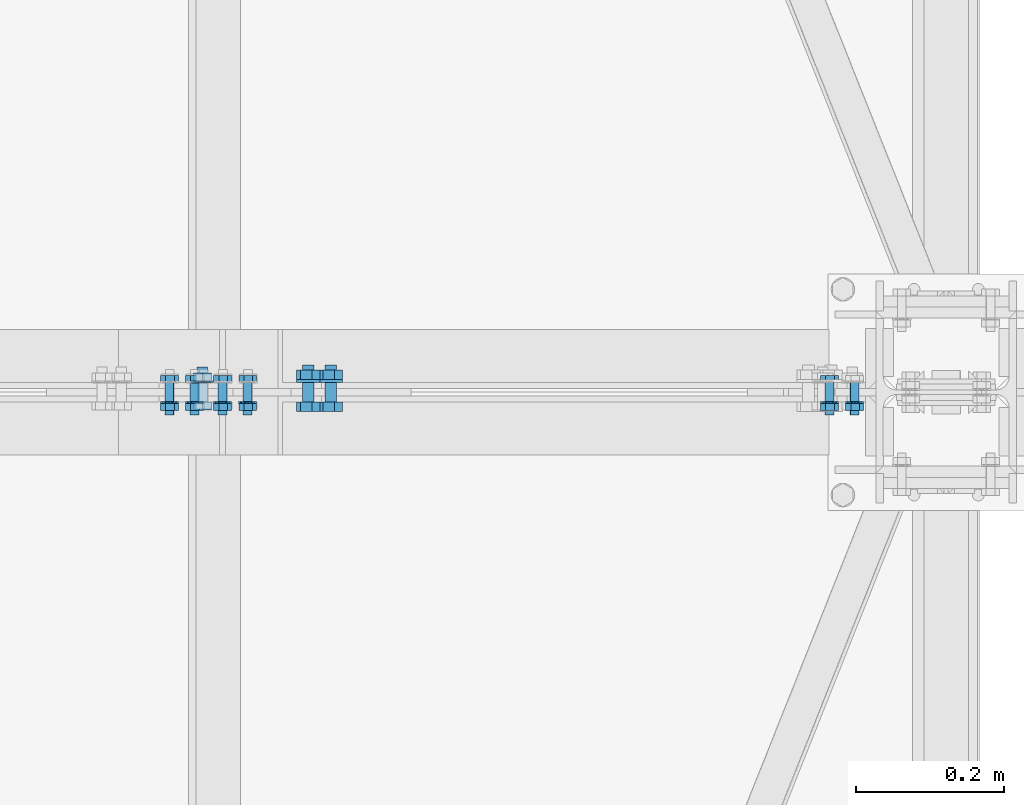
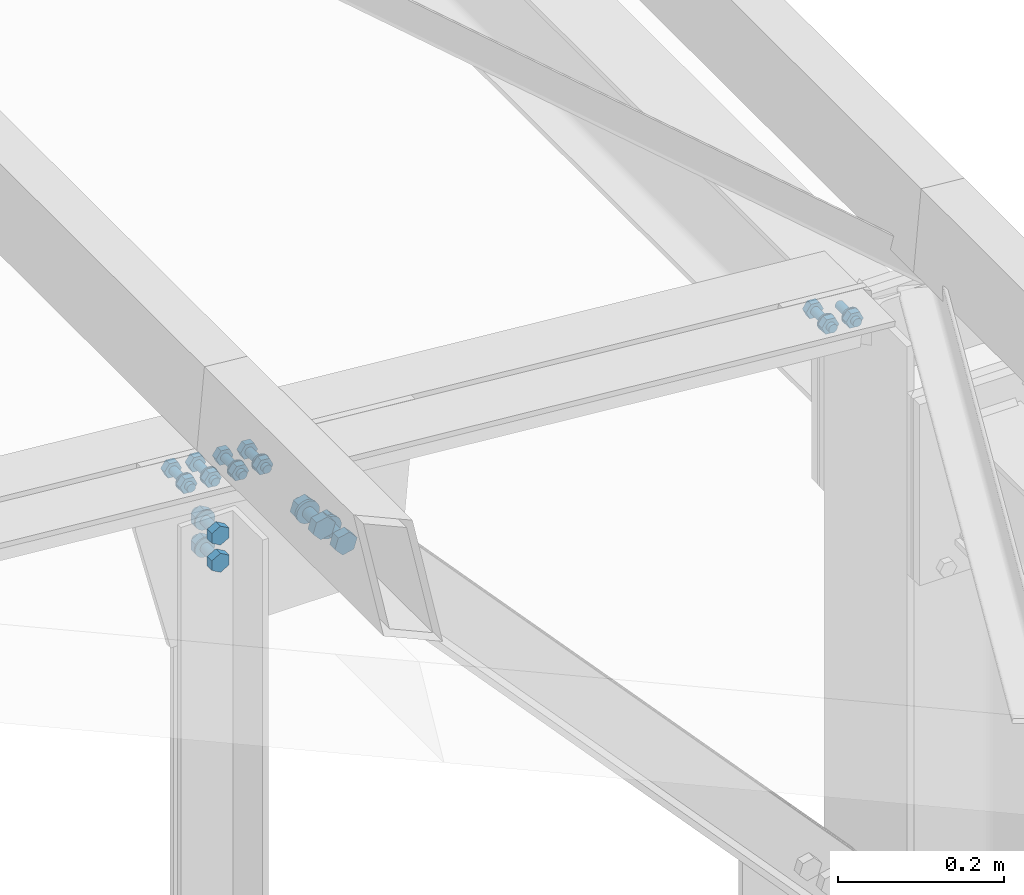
# One storey, part 162 of 251: 39 mechanical fasteners.
"""IFC4 building model written with IfcOpenShell, lengths in metres."""

from ifc_helpers import new_model, si_unit, frame, origin_with_axes, place, context, project, spatial, polyline, outline, extrude, type_object, element, save


model = new_model("IFC4")

# Units and contexts
model_context = context("Model", 3, precision=1e-05, world=origin_with_axes())
ifc_project = project(units=[si_unit("LENGTHUNIT", "METRE"), si_unit("AREAUNIT", "SQUARE_METRE"), si_unit("VOLUMEUNIT", "CUBIC_METRE"), si_unit("MASSUNIT", "GRAM", prefix="KILO"), si_unit("TIMEUNIT", "SECOND"), si_unit("PLANEANGLEUNIT", "RADIAN"), si_unit("SOLIDANGLEUNIT", "STERADIAN"), si_unit("THERMODYNAMICTEMPERATUREUNIT", "DEGREE_CELSIUS")], contexts=[model_context])

# Site, building, storey
placement_1 = place(None, origin_with_axes())
site = spatial("IfcSite", under=ifc_project, at=placement_1, Name="Italia", CompositionType="ELEMENT")
building = spatial("IfcBuilding", under=site, at=placement_1, Name="Deposito", CompositionType="ELEMENT")
storey = spatial("IfcBuildingStorey", under=building, at=placement_1, Name="Storey 0", CompositionType="ELEMENT", Elevation=0.0)

# Mechanical fasteners
mechanical_fastener_type_1 = type_object("IfcMechanicalFastenerType", Name="Reticolare 4", PredefinedType="BOLT")
placement_2 = place(placement_1, origin_with_axes())
mechanical_fastener_1_placement = place(placement_2, origin_with_axes())
element("IfcMechanicalFastener", 1, at=mechanical_fastener_1_placement, inside=storey, type_object=mechanical_fastener_type_1, Name="Reticolare 4", NominalDiameter=0.012, context=model_context, shape_type="SweptSolid", body=[
    extrude(outline(polyline([(0.0, 0.0), (-0.000204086, -0.00155306), (-0.000804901, -0.00299978), (-0.00175858, -0.00424242), (-0.00300026, -0.00519609), (-0.00444794, -0.00579548), (-0.00600052, -0.00600004), (-0.0075531, -0.00579548), (-0.00900078, -0.00519609), (-0.0102425, -0.00424242), (-0.0111961, -0.00299978), (-0.011797, -0.00155306), (-0.012001, 0.0), (-0.011797, 0.00155306), (-0.0111961, 0.00299978), (-0.0102425, 0.00424242), (-0.00900078, 0.00519609), (-0.0075531, 0.00579548), (-0.00600052, 0.00600004), (-0.00444794, 0.00579548), (-0.00300026, 0.00519609), (-0.00175858, 0.00424242), (-0.000804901, 0.00299978), (-0.000204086, 0.00155306), (0.0, 0.0)])), frame((19.8702, 9.969, 6.0038), z_axis=(0.0, 1.0, 0.0), x_axis=(-1.0, 0.0, 0.0)), (0.0, 0.0, 1.0), 0.0439997),
])
mechanical_fastener_type_2 = type_object("IfcMechanicalFastenerType", Name="Reticolare 4", PredefinedType="BOLT")
mechanical_fastener_2_placement = place(placement_2, origin_with_axes())
element("IfcMechanicalFastener", 2, at=mechanical_fastener_2_placement, inside=storey, type_object=mechanical_fastener_type_2, Name="Reticolare 4", NominalDiameter=0.011999, context=model_context, shape_type="SweptSolid", body=[
    extrude(outline(polyline([(0.0, 0.0), (0.0119534, 0.00104618), (0.018837, -0.00878382), (0.0137653, -0.0196595), (0.00181198, -0.0207052), (-0.00507164, -0.0108757), (0.0, 0.0)])), frame((19.8831, 9.9754, 6.01363), z_axis=(0.0, 1.0, 0.0), x_axis=(-1.0, 0.0, 0.0)), (0.0, 0.0, 1.0), 0.00959969),
])
mechanical_fastener_type_3 = type_object("IfcMechanicalFastenerType", Name="Reticolare 4", PredefinedType="BOLT")
mechanical_fastener_3_placement = place(placement_2, origin_with_axes())
element("IfcMechanicalFastener", 3, at=mechanical_fastener_3_placement, inside=storey, type_object=mechanical_fastener_type_3, Name="Reticolare 4", NominalDiameter=0.024, context=model_context, shape_type="SweptSolid", body=[
    extrude(outline(polyline([(0.0, 0.0), (-0.000408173, -0.00310564), (-0.00160599, -0.00600004), (-0.00351334, -0.00848532), (-0.00599861, -0.0103922), (-0.00889397, -0.011591), (-0.0119991, -0.0120001), (-0.0151043, -0.011591), (-0.0179996, -0.0103922), (-0.0204849, -0.00848532), (-0.0223923, -0.00600004), (-0.0235901, -0.00310564), (-0.0239983, 0.0), (-0.0235901, 0.00310564), (-0.0223923, 0.00600004), (-0.0204849, 0.00848532), (-0.0179996, 0.0103922), (-0.0151043, 0.011591), (-0.0119991, 0.0120001), (-0.00889397, 0.011591), (-0.00599861, 0.0103922), (-0.00351334, 0.00848532), (-0.00160599, 0.00600004), (-0.000408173, 0.00310564), (0.0, 0.0)])), frame((19.8642, 9.985, 6.0038), z_axis=(0.0, 1.0, 0.0), x_axis=(-1.0, 0.0, 0.0)), (0.0, 0.0, 1.0), 0.00200081),
])
mechanical_fastener_type_4 = type_object("IfcMechanicalFastenerType", Name="Reticolare 4", PredefinedType="BOLT")
mechanical_fastener_4_placement = place(placement_2, origin_with_axes())
element("IfcMechanicalFastener", 4, at=mechanical_fastener_4_placement, inside=storey, type_object=mechanical_fastener_type_4, Name="Reticolare 4", NominalDiameter=0.011999, context=model_context, shape_type="SweptSolid", body=[
    extrude(outline(polyline([(0.0, 0.0), (0.0119534, 0.0010457), (0.018837, -0.00878429), (0.0137653, -0.01966), (0.00181198, -0.0207057), (-0.00507164, -0.0108757), (0.0, 0.0)])), frame((19.8492, 10.013, 6.0166), z_axis=(0.0, 1.0, 0.0), x_axis=(-1.0, 0.0, 0.0)), (0.0, 0.0, 1.0), 0.00960064),
])
mechanical_fastener_type_5 = type_object("IfcMechanicalFastenerType", Name="Reticolare 4", PredefinedType="BOLT")
mechanical_fastener_5_placement = place(placement_2, origin_with_axes())
element("IfcMechanicalFastener", 5, at=mechanical_fastener_5_placement, inside=storey, type_object=mechanical_fastener_type_5, Name="Reticolare 4", NominalDiameter=0.012, context=model_context, shape_type="SweptSolid", body=[
    extrude(outline(polyline([(0.0, 0.0), (-0.000204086, -0.00155306), (-0.000804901, -0.00299978), (-0.00175858, -0.00424242), (-0.00300026, -0.00519609), (-0.00444794, -0.00579548), (-0.00600052, -0.00600004), (-0.0075531, -0.00579548), (-0.00900078, -0.00519609), (-0.0102425, -0.00424242), (-0.0111961, -0.00299978), (-0.011797, -0.00155306), (-0.012001, 0.0), (-0.011797, 0.00155306), (-0.0111961, 0.00299978), (-0.0102425, 0.00424242), (-0.00900078, 0.00519609), (-0.0075531, 0.00579548), (-0.00600052, 0.00600004), (-0.00444794, 0.00579548), (-0.00300026, 0.00519609), (-0.00175858, 0.00424242), (-0.000804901, 0.00299978), (-0.000204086, 0.00155306), (0.0, 0.0)])), frame((19.8363, 9.969, 6.00677), z_axis=(0.0, 1.0, 0.0), x_axis=(-1.0, 0.0, 0.0)), (0.0, 0.0, 1.0), 0.0439997),
])
mechanical_fastener_type_6 = type_object("IfcMechanicalFastenerType", Name="Reticolare 4", PredefinedType="BOLT")
mechanical_fastener_6_placement = place(placement_2, origin_with_axes())
element("IfcMechanicalFastener", 6, at=mechanical_fastener_6_placement, inside=storey, type_object=mechanical_fastener_type_6, Name="Reticolare 4", NominalDiameter=0.011999, context=model_context, shape_type="SweptSolid", body=[
    extrude(outline(polyline([(0.0, 0.0), (0.0119534, 0.0010457), (0.018837, -0.00878429), (0.0137653, -0.01966), (0.00181198, -0.0207057), (-0.00507164, -0.0108757), (0.0, 0.0)])), frame((19.8492, 9.9754, 6.0166), z_axis=(0.0, 1.0, 0.0), x_axis=(-1.0, 0.0, 0.0)), (0.0, 0.0, 1.0), 0.00959969),
])
mechanical_fastener_type_7 = type_object("IfcMechanicalFastenerType", Name="Reticolare 4", PredefinedType="BOLT")
mechanical_fastener_7_placement = place(placement_2, origin_with_axes())
element("IfcMechanicalFastener", 7, at=mechanical_fastener_7_placement, inside=storey, type_object=mechanical_fastener_type_7, Name="Reticolare 4", NominalDiameter=0.024, context=model_context, shape_type="SweptSolid", body=[
    extrude(outline(polyline([(0.0, 0.0), (-0.000408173, -0.00310564), (-0.00160599, -0.00600004), (-0.00351334, -0.00848532), (-0.00599861, -0.0103922), (-0.00889397, -0.011591), (-0.0119991, -0.0120001), (-0.0151043, -0.011591), (-0.0179996, -0.0103922), (-0.0204849, -0.00848532), (-0.0223923, -0.00600004), (-0.0235901, -0.00310564), (-0.0239983, 0.0), (-0.0235901, 0.00310564), (-0.0223923, 0.00600004), (-0.0204849, 0.00848532), (-0.0179996, 0.0103922), (-0.0151043, 0.011591), (-0.0119991, 0.0120001), (-0.00889397, 0.011591), (-0.00599861, 0.0103922), (-0.00351334, 0.00848532), (-0.00160599, 0.00600004), (-0.000408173, 0.00310564), (0.0, 0.0)])), frame((19.8303, 9.985, 6.00677), z_axis=(0.0, 1.0, 0.0), x_axis=(-1.0, 0.0, 0.0)), (0.0, 0.0, 1.0), 0.00200081),
])
mechanical_fastener_type_8 = type_object("IfcMechanicalFastenerType", Name="Reticolare 4", PredefinedType="BOLT")
mechanical_fastener_8_placement = place(placement_2, origin_with_axes())
element("IfcMechanicalFastener", 8, at=mechanical_fastener_8_placement, inside=storey, type_object=mechanical_fastener_type_8, Name="Reticolare 4", NominalDiameter=0.011999, context=model_context, shape_type="SweptSolid", body=[
    extrude(outline(polyline([(0.0, 0.0), (0.0119534, 0.00104618), (0.018837, -0.00878382), (0.0137653, -0.0196595), (0.00181198, -0.0207052), (-0.00507164, -0.0108757), (0.0, 0.0)])), frame((18.9911, 10.013, 6.09167), z_axis=(0.0, 1.0, 0.0), x_axis=(-1.0, 0.0, 0.0)), (0.0, 0.0, 1.0), 0.00960064),
])
mechanical_fastener_type_9 = type_object("IfcMechanicalFastenerType", Name="Reticolare 4", PredefinedType="BOLT")
mechanical_fastener_9_placement = place(placement_2, origin_with_axes())
element("IfcMechanicalFastener", 9, at=mechanical_fastener_9_placement, inside=storey, type_object=mechanical_fastener_type_9, Name="Reticolare 4", NominalDiameter=0.012, context=model_context, shape_type="SweptSolid", body=[
    extrude(outline(polyline([(0.0, 0.0), (-0.000204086, -0.00155306), (-0.000804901, -0.00299978), (-0.00175858, -0.00424242), (-0.00300026, -0.00519609), (-0.00444794, -0.00579548), (-0.00600052, -0.00600004), (-0.0075531, -0.00579548), (-0.00900078, -0.00519609), (-0.0102425, -0.00424242), (-0.0111961, -0.00299978), (-0.011797, -0.00155306), (-0.012001, 0.0), (-0.011797, 0.00155306), (-0.0111961, 0.00299978), (-0.0102425, 0.00424242), (-0.00900078, 0.00519609), (-0.0075531, 0.00579548), (-0.00600052, 0.00600004), (-0.00444794, 0.00579548), (-0.00300026, 0.00519609), (-0.00175858, 0.00424242), (-0.000804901, 0.00299978), (-0.000204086, 0.00155306), (0.0, 0.0)])), frame((18.9783, 9.969, 6.08184), z_axis=(0.0, 1.0, 0.0), x_axis=(-1.0, 0.0, 0.0)), (0.0, 0.0, 1.0), 0.0439997),
])
mechanical_fastener_type_10 = type_object("IfcMechanicalFastenerType", Name="Reticolare 4", PredefinedType="BOLT")
mechanical_fastener_10_placement = place(placement_2, origin_with_axes())
element("IfcMechanicalFastener", 10, at=mechanical_fastener_10_placement, inside=storey, type_object=mechanical_fastener_type_10, Name="Reticolare 4", NominalDiameter=0.011999, context=model_context, shape_type="SweptSolid", body=[
    extrude(outline(polyline([(0.0, 0.0), (0.0119534, 0.00104618), (0.018837, -0.00878382), (0.0137653, -0.0196595), (0.00181198, -0.0207052), (-0.00507164, -0.0108757), (0.0, 0.0)])), frame((18.9911, 9.9754, 6.09167), z_axis=(0.0, 1.0, 0.0), x_axis=(-1.0, 0.0, 0.0)), (0.0, 0.0, 1.0), 0.00959969),
])
mechanical_fastener_type_11 = type_object("IfcMechanicalFastenerType", Name="Reticolare 4", PredefinedType="BOLT")
mechanical_fastener_11_placement = place(placement_2, origin_with_axes())
element("IfcMechanicalFastener", 11, at=mechanical_fastener_11_placement, inside=storey, type_object=mechanical_fastener_type_11, Name="Reticolare 4", NominalDiameter=0.024, context=model_context, shape_type="SweptSolid", body=[
    extrude(outline(polyline([(0.0, 0.0), (-0.000408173, -0.00310564), (-0.00160599, -0.00600004), (-0.00351334, -0.00848532), (-0.00599861, -0.0103922), (-0.00889397, -0.011591), (-0.0119991, -0.0120001), (-0.0151043, -0.011591), (-0.0179996, -0.0103922), (-0.0204849, -0.00848532), (-0.0223923, -0.00600004), (-0.0235901, -0.00310564), (-0.0239983, 0.0), (-0.0235901, 0.00310564), (-0.0223923, 0.00600004), (-0.0204849, 0.00848532), (-0.0179996, 0.0103922), (-0.0151043, 0.011591), (-0.0119991, 0.0120001), (-0.00889397, 0.011591), (-0.00599861, 0.0103922), (-0.00351334, 0.00848532), (-0.00160599, 0.00600004), (-0.000408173, 0.00310564), (0.0, 0.0)])), frame((18.9723, 9.985, 6.08184), z_axis=(0.0, 1.0, 0.0), x_axis=(-1.0, 0.0, 0.0)), (0.0, 0.0, 1.0), 0.00200081),
])
mechanical_fastener_type_12 = type_object("IfcMechanicalFastenerType", Name="Reticolare 4", PredefinedType="BOLT")
mechanical_fastener_12_placement = place(placement_2, origin_with_axes())
element("IfcMechanicalFastener", 12, at=mechanical_fastener_12_placement, inside=storey, type_object=mechanical_fastener_type_12, Name="Reticolare 4", NominalDiameter=0.011999, context=model_context, shape_type="SweptSolid", body=[
    extrude(outline(polyline([(0.0, 0.0), (0.0119534, 0.0010457), (0.018837, -0.00878429), (0.0137653, -0.01966), (0.00181198, -0.0207057), (-0.00507164, -0.0108757), (0.0, 0.0)])), frame((18.9573, 10.013, 6.09463), z_axis=(0.0, 1.0, 0.0), x_axis=(-1.0, 0.0, 0.0)), (0.0, 0.0, 1.0), 0.00960064),
])
mechanical_fastener_type_13 = type_object("IfcMechanicalFastenerType", Name="Reticolare 4", PredefinedType="BOLT")
mechanical_fastener_13_placement = place(placement_2, origin_with_axes())
element("IfcMechanicalFastener", 13, at=mechanical_fastener_13_placement, inside=storey, type_object=mechanical_fastener_type_13, Name="Reticolare 4", NominalDiameter=0.012, context=model_context, shape_type="SweptSolid", body=[
    extrude(outline(polyline([(0.0, 0.0), (-0.000204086, -0.00155306), (-0.000804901, -0.00299978), (-0.00175858, -0.00424242), (-0.00300026, -0.00519609), (-0.00444794, -0.00579548), (-0.00600052, -0.00600004), (-0.0075531, -0.00579548), (-0.00900078, -0.00519609), (-0.0102425, -0.00424242), (-0.0111961, -0.00299978), (-0.011797, -0.00155306), (-0.012001, 0.0), (-0.011797, 0.00155306), (-0.0111961, 0.00299978), (-0.0102425, 0.00424242), (-0.00900078, 0.00519609), (-0.0075531, 0.00579548), (-0.00600052, 0.00600004), (-0.00444794, 0.00579548), (-0.00300026, 0.00519609), (-0.00175858, 0.00424242), (-0.000804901, 0.00299978), (-0.000204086, 0.00155306), (0.0, 0.0)])), frame((18.9444, 9.969, 6.0848), z_axis=(0.0, 1.0, 0.0), x_axis=(-1.0, 0.0, 0.0)), (0.0, 0.0, 1.0), 0.0439997),
])
mechanical_fastener_type_14 = type_object("IfcMechanicalFastenerType", Name="Reticolare 4", PredefinedType="BOLT")
mechanical_fastener_14_placement = place(placement_2, origin_with_axes())
element("IfcMechanicalFastener", 14, at=mechanical_fastener_14_placement, inside=storey, type_object=mechanical_fastener_type_14, Name="Reticolare 4", NominalDiameter=0.011999, context=model_context, shape_type="SweptSolid", body=[
    extrude(outline(polyline([(0.0, 0.0), (0.0119534, 0.0010457), (0.018837, -0.00878429), (0.0137653, -0.01966), (0.00181198, -0.0207057), (-0.00507164, -0.0108757), (0.0, 0.0)])), frame((18.9573, 9.9754, 6.09463), z_axis=(0.0, 1.0, 0.0), x_axis=(-1.0, 0.0, 0.0)), (0.0, 0.0, 1.0), 0.00959969),
])
mechanical_fastener_type_15 = type_object("IfcMechanicalFastenerType", Name="Reticolare 4", PredefinedType="BOLT")
mechanical_fastener_15_placement = place(placement_2, origin_with_axes())
element("IfcMechanicalFastener", 15, at=mechanical_fastener_15_placement, inside=storey, type_object=mechanical_fastener_type_15, Name="Reticolare 4", NominalDiameter=0.024, context=model_context, shape_type="SweptSolid", body=[
    extrude(outline(polyline([(0.0, 0.0), (-0.000408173, -0.00310564), (-0.00160599, -0.00600004), (-0.00351334, -0.00848532), (-0.00599861, -0.0103922), (-0.00889397, -0.011591), (-0.0119991, -0.0120001), (-0.0151043, -0.011591), (-0.0179996, -0.0103922), (-0.0204849, -0.00848532), (-0.0223923, -0.00600004), (-0.0235901, -0.00310564), (-0.0239983, 0.0), (-0.0235901, 0.00310564), (-0.0223923, 0.00600004), (-0.0204849, 0.00848532), (-0.0179996, 0.0103922), (-0.0151043, 0.011591), (-0.0119991, 0.0120001), (-0.00889397, 0.011591), (-0.00599861, 0.0103922), (-0.00351334, 0.00848532), (-0.00160599, 0.00600004), (-0.000408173, 0.00310564), (0.0, 0.0)])), frame((18.9384, 9.985, 6.0848), z_axis=(0.0, 1.0, 0.0), x_axis=(-1.0, 0.0, 0.0)), (0.0, 0.0, 1.0), 0.00200081),
])
mechanical_fastener_type_16 = type_object("IfcMechanicalFastenerType", Name="Reticolare 4", PredefinedType="BOLT")
mechanical_fastener_16_placement = place(placement_2, origin_with_axes())
element("IfcMechanicalFastener", 16, at=mechanical_fastener_16_placement, inside=storey, type_object=mechanical_fastener_type_16, Name="Reticolare 4", NominalDiameter=0.011999, context=model_context, shape_type="SweptSolid", body=[
    extrude(outline(polyline([(0.0, 0.0), (0.0119534, 0.0010457), (0.018837, -0.00878429), (0.0137653, -0.01966), (0.00181007, -0.0207057), (-0.00507164, -0.0108757), (0.0, 0.0)])), frame((19.029, 10.013, 6.08836), z_axis=(0.0, 1.0, 0.0), x_axis=(-1.0, 0.0, 0.0)), (0.0, 0.0, 1.0), 0.00960064),
])
mechanical_fastener_type_17 = type_object("IfcMechanicalFastenerType", Name="Reticolare 4", PredefinedType="BOLT")
mechanical_fastener_17_placement = place(placement_2, origin_with_axes())
element("IfcMechanicalFastener", 17, at=mechanical_fastener_17_placement, inside=storey, type_object=mechanical_fastener_type_17, Name="Reticolare 4", NominalDiameter=0.012, context=model_context, shape_type="SweptSolid", body=[
    extrude(outline(polyline([(0.0, 0.0), (-0.000204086, -0.00155306), (-0.000804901, -0.00299978), (-0.00175858, -0.00424242), (-0.00300026, -0.00519609), (-0.00444794, -0.00579548), (-0.00600052, -0.00600004), (-0.0075531, -0.00579548), (-0.00900078, -0.00519609), (-0.0102425, -0.00424242), (-0.0111961, -0.00299978), (-0.011797, -0.00155306), (-0.012001, 0.0), (-0.011797, 0.00155306), (-0.0111961, 0.00299978), (-0.0102425, 0.00424242), (-0.00900078, 0.00519609), (-0.0075531, 0.00579548), (-0.00600052, 0.00600004), (-0.00444794, 0.00579548), (-0.00300026, 0.00519609), (-0.00175858, 0.00424242), (-0.000804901, 0.00299978), (-0.000204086, 0.00155306), (0.0, 0.0)])), frame((19.0161, 9.969, 6.07853), z_axis=(0.0, 1.0, 0.0), x_axis=(-1.0, 0.0, 0.0)), (0.0, 0.0, 1.0), 0.0439997),
])
mechanical_fastener_type_18 = type_object("IfcMechanicalFastenerType", Name="Reticolare 4", PredefinedType="BOLT")
mechanical_fastener_18_placement = place(placement_2, origin_with_axes())
element("IfcMechanicalFastener", 18, at=mechanical_fastener_18_placement, inside=storey, type_object=mechanical_fastener_type_18, Name="Reticolare 4", NominalDiameter=0.011999, context=model_context, shape_type="SweptSolid", body=[
    extrude(outline(polyline([(0.0, 0.0), (0.0119534, 0.0010457), (0.018837, -0.00878429), (0.0137653, -0.01966), (0.00181007, -0.0207057), (-0.00507164, -0.0108757), (0.0, 0.0)])), frame((19.029, 9.9754, 6.08836), z_axis=(0.0, 1.0, 0.0), x_axis=(-1.0, 0.0, 0.0)), (0.0, 0.0, 1.0), 0.00959969),
])
mechanical_fastener_type_19 = type_object("IfcMechanicalFastenerType", Name="Reticolare 4", PredefinedType="BOLT")
mechanical_fastener_19_placement = place(placement_2, origin_with_axes())
element("IfcMechanicalFastener", 19, at=mechanical_fastener_19_placement, inside=storey, type_object=mechanical_fastener_type_19, Name="Reticolare 4", NominalDiameter=0.024, context=model_context, shape_type="SweptSolid", body=[
    extrude(outline(polyline([(0.0, 0.0), (-0.000408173, -0.00310564), (-0.00160599, -0.00600004), (-0.00351334, -0.00848532), (-0.00599861, -0.0103922), (-0.00889397, -0.011591), (-0.0119991, -0.0120001), (-0.0151043, -0.011591), (-0.0179996, -0.0103922), (-0.0204849, -0.00848532), (-0.0223923, -0.00600004), (-0.0235901, -0.00310564), (-0.0239983, 0.0), (-0.0235901, 0.00310564), (-0.0223923, 0.00600004), (-0.0204849, 0.00848532), (-0.0179996, 0.0103922), (-0.0151043, 0.011591), (-0.0119991, 0.0120001), (-0.00889397, 0.011591), (-0.00599861, 0.0103922), (-0.00351334, 0.00848532), (-0.00160599, 0.00600004), (-0.000408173, 0.00310564), (0.0, 0.0)])), frame((19.0101, 9.985, 6.07853), z_axis=(0.0, 1.0, 0.0), x_axis=(-1.0, 0.0, 0.0)), (0.0, 0.0, 1.0), 0.00200081),
])
mechanical_fastener_type_20 = type_object("IfcMechanicalFastenerType", Name="Reticolare 4", PredefinedType="BOLT")
mechanical_fastener_20_placement = place(placement_2, origin_with_axes())
element("IfcMechanicalFastener", 20, at=mechanical_fastener_20_placement, inside=storey, type_object=mechanical_fastener_type_20, Name="Reticolare 4", NominalDiameter=0.011999, context=model_context, shape_type="SweptSolid", body=[
    extrude(outline(polyline([(0.0, 0.0), (0.0119534, 0.0010457), (0.018837, -0.00878382), (0.0137653, -0.0196595), (0.00181007, -0.0207052), (-0.00507164, -0.0108757), (0.0, 0.0)])), frame((19.0629, 10.013, 6.08539), z_axis=(0.0, 1.0, 0.0), x_axis=(-1.0, 0.0, 0.0)), (0.0, 0.0, 1.0), 0.00960064),
])
mechanical_fastener_type_21 = type_object("IfcMechanicalFastenerType", Name="Reticolare 4", PredefinedType="BOLT")
mechanical_fastener_21_placement = place(placement_2, origin_with_axes())
element("IfcMechanicalFastener", 21, at=mechanical_fastener_21_placement, inside=storey, type_object=mechanical_fastener_type_21, Name="Reticolare 4", NominalDiameter=0.012, context=model_context, shape_type="SweptSolid", body=[
    extrude(outline(polyline([(0.0, 0.0), (-0.000204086, -0.00155306), (-0.000804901, -0.00299978), (-0.00175858, -0.00424242), (-0.00300026, -0.00519609), (-0.00444794, -0.00579548), (-0.00600052, -0.00600004), (-0.0075531, -0.00579548), (-0.00900078, -0.00519609), (-0.0102425, -0.00424242), (-0.0111961, -0.00299978), (-0.011797, -0.00155306), (-0.012001, 0.0), (-0.011797, 0.00155306), (-0.0111961, 0.00299978), (-0.0102425, 0.00424242), (-0.00900078, 0.00519609), (-0.0075531, 0.00579548), (-0.00600052, 0.00600004), (-0.00444794, 0.00579548), (-0.00300026, 0.00519609), (-0.00175858, 0.00424242), (-0.000804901, 0.00299978), (-0.000204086, 0.00155306), (0.0, 0.0)])), frame((19.05, 9.969, 6.07556), z_axis=(0.0, 1.0, 0.0), x_axis=(-1.0, 0.0, 0.0)), (0.0, 0.0, 1.0), 0.0439997),
])
mechanical_fastener_type_22 = type_object("IfcMechanicalFastenerType", Name="Reticolare 4", PredefinedType="BOLT")
mechanical_fastener_22_placement = place(placement_2, origin_with_axes())
element("IfcMechanicalFastener", 22, at=mechanical_fastener_22_placement, inside=storey, type_object=mechanical_fastener_type_22, Name="Reticolare 4", NominalDiameter=0.011999, context=model_context, shape_type="SweptSolid", body=[
    extrude(outline(polyline([(0.0, 0.0), (0.0119534, 0.0010457), (0.018837, -0.00878382), (0.0137653, -0.0196595), (0.00181007, -0.0207052), (-0.00507164, -0.0108757), (0.0, 0.0)])), frame((19.0629, 9.9754, 6.08539), z_axis=(0.0, 1.0, 0.0), x_axis=(-1.0, 0.0, 0.0)), (0.0, 0.0, 1.0), 0.00959969),
])
mechanical_fastener_type_23 = type_object("IfcMechanicalFastenerType", Name="Reticolare 4", PredefinedType="BOLT")
mechanical_fastener_23_placement = place(placement_2, origin_with_axes())
element("IfcMechanicalFastener", 23, at=mechanical_fastener_23_placement, inside=storey, type_object=mechanical_fastener_type_23, Name="Reticolare 4", NominalDiameter=0.024, context=model_context, shape_type="SweptSolid", body=[
    extrude(outline(polyline([(0.0, 0.0), (-0.000408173, -0.00310564), (-0.00160599, -0.00600004), (-0.00351334, -0.00848532), (-0.00599861, -0.0103922), (-0.00889397, -0.011591), (-0.0119991, -0.0120001), (-0.0151043, -0.011591), (-0.0179996, -0.0103922), (-0.0204849, -0.00848532), (-0.0223923, -0.00600004), (-0.0235901, -0.00310564), (-0.0239983, 0.0), (-0.0235901, 0.00310564), (-0.0223923, 0.00600004), (-0.0204849, 0.00848532), (-0.0179996, 0.0103922), (-0.0151043, 0.011591), (-0.0119991, 0.0120001), (-0.00889397, 0.011591), (-0.00599861, 0.0103922), (-0.00351334, 0.00848532), (-0.00160599, 0.00600004), (-0.000408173, 0.00310564), (0.0, 0.0)])), frame((19.044, 9.985, 6.07556), z_axis=(0.0, 1.0, 0.0), x_axis=(-1.0, 0.0, 0.0)), (0.0, 0.0, 1.0), 0.00200081),
])
mechanical_fastener_type_24 = type_object("IfcMechanicalFastenerType", Name="Reticolare 4", PredefinedType="BOLT")
mechanical_fastener_24_placement = place(placement_2, origin_with_axes())
element("IfcMechanicalFastener", 24, at=mechanical_fastener_24_placement, inside=storey, type_object=mechanical_fastener_type_24, Name="Reticolare 4", NominalDiameter=0.0139989, context=model_context, shape_type="SweptSolid", body=[
    extrude(outline(polyline([(0.0, 0.0), (0.0, -0.0139999), (-0.012125, -0.0209999), (-0.0242481, -0.0139999), (-0.0242481, 0.0), (-0.012125, 0.00699997), (0.0, 0.0)])), frame((19.0069, 9.987, 6.0024), z_axis=(0.0, -1.0, 0.0), x_axis=(1.0, 0.0, 0.0)), (0.0, 0.0, 1.0), 0.0112009),
])
mechanical_fastener_type_25 = type_object("IfcMechanicalFastenerType", Name="Reticolare 4", PredefinedType="BOLT")
mechanical_fastener_25_placement = place(placement_2, origin_with_axes())
element("IfcMechanicalFastener", 25, at=mechanical_fastener_25_placement, inside=storey, type_object=mechanical_fastener_type_25, Name="Reticolare 4", NominalDiameter=0.014, context=model_context, shape_type="SweptSolid", body=[
    extrude(outline(polyline([(0.0, 0.0), (-0.000238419, -0.0018115), (-0.000938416, -0.00349998), (-0.0020504, -0.00494957), (-0.00349998, -0.00606203), (-0.00518799, -0.00676155), (-0.00699997, -0.00699997), (-0.00881195, -0.00676155), (-0.0105, -0.00606203), (-0.0119495, -0.00494957), (-0.0130615, -0.00349998), (-0.0137615, -0.0018115), (-0.0139999, 0.0), (-0.0137615, 0.0018115), (-0.0130615, 0.00349998), (-0.0119495, 0.00494957), (-0.0105, 0.00606203), (-0.00881195, 0.00676155), (-0.00699997, 0.00699997), (-0.00518799, 0.00676155), (-0.00349998, 0.00606203), (-0.0020504, 0.00494957), (-0.000938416, 0.00349998), (-0.000238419, 0.0018115), (0.0, 0.0)])), frame((19.0018, 10.034, 5.99539), z_axis=(0.0, -1.0, 0.0), x_axis=(1.0, 0.0, 0.0)), (0.0, 0.0, 1.0), 0.0469999),
])
mechanical_fastener_type_26 = type_object("IfcMechanicalFastenerType", Name="Reticolare 4", PredefinedType="BOLT")
mechanical_fastener_26_placement = place(placement_2, origin_with_axes())
element("IfcMechanicalFastener", 26, at=mechanical_fastener_26_placement, inside=storey, type_object=mechanical_fastener_type_26, Name="Reticolare 4", NominalDiameter=0.0139989, context=model_context, shape_type="SweptSolid", body=[
    extrude(outline(polyline([(0.0, 0.0), (0.0, -0.0139999), (-0.012125, -0.0209999), (-0.0242481, -0.0139999), (-0.0242481, 0.0), (-0.012125, 0.00699997), (0.0, 0.0)])), frame((19.0069, 10.0262, 6.0024), z_axis=(0.0, -1.0, 0.0), x_axis=(1.0, 0.0, 0.0)), (0.0, 0.0, 1.0), 0.0112),
])
mechanical_fastener_type_27 = type_object("IfcMechanicalFastenerType", Name="Reticolare 4", PredefinedType="BOLT")
mechanical_fastener_27_placement = place(placement_2, origin_with_axes())
element("IfcMechanicalFastener", 27, at=mechanical_fastener_27_placement, inside=storey, type_object=mechanical_fastener_type_27, Name="Reticolare 4", NominalDiameter=0.028, context=model_context, shape_type="SweptSolid", body=[
    extrude(outline(polyline([(0.0, 0.0), (-0.000476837, -0.00362349), (-0.00187492, -0.00699997), (-0.0041008, -0.00989962), (-0.00699997, -0.0121245), (-0.010376, -0.0135231), (-0.0139999, -0.0139999), (-0.0176239, -0.0135231), (-0.0209999, -0.0121245), (-0.0238991, -0.00989962), (-0.026125, -0.00699997), (-0.027523, -0.00362349), (-0.0279999, 0.0), (-0.027523, 0.00362349), (-0.026125, 0.00699997), (-0.0238991, 0.00989962), (-0.0209999, 0.0121245), (-0.0176239, 0.0135231), (-0.0139999, 0.0139999), (-0.010376, 0.0135231), (-0.00699997, 0.0121245), (-0.0041008, 0.00989962), (-0.00187492, 0.00699997), (-0.000476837, 0.00362349), (0.0, 0.0)])), frame((19.0088, 10.015, 5.9954), z_axis=(0.0, -1.0, 0.0), x_axis=(1.0, 0.0, 0.0)), (0.0, 0.0, 1.0), 0.00200081),
])
mechanical_fastener_type_28 = type_object("IfcMechanicalFastenerType", Name="Reticolare 4", PredefinedType="BOLT")
mechanical_fastener_28_placement = place(placement_2, origin_with_axes())
element("IfcMechanicalFastener", 28, at=mechanical_fastener_28_placement, inside=storey, type_object=mechanical_fastener_type_28, Name="Reticolare 4", NominalDiameter=0.0139989, context=model_context, shape_type="SweptSolid", body=[
    extrude(outline(polyline([(0.0, 0.0), (0.0, -0.0139999), (-0.012125, -0.0210004), (-0.0242481, -0.0139999), (-0.0242481, 0.0), (-0.012125, 0.00699997), (0.0, 0.0)])), frame((19.0069, 9.987, 5.9624), z_axis=(0.0, -1.0, 0.0), x_axis=(1.0, 0.0, 0.0)), (0.0, 0.0, 1.0), 0.0112009),
])
mechanical_fastener_type_29 = type_object("IfcMechanicalFastenerType", Name="Reticolare 4", PredefinedType="BOLT")
mechanical_fastener_29_placement = place(placement_2, origin_with_axes())
element("IfcMechanicalFastener", 29, at=mechanical_fastener_29_placement, inside=storey, type_object=mechanical_fastener_type_29, Name="Reticolare 4", NominalDiameter=0.014, context=model_context, shape_type="SweptSolid", body=[
    extrude(outline(polyline([(0.0, 0.0), (-0.000238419, -0.0018115), (-0.000938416, -0.00349998), (-0.0020504, -0.00494957), (-0.00349998, -0.00606203), (-0.00518799, -0.00676155), (-0.00699997, -0.00699997), (-0.00881195, -0.00676155), (-0.0105, -0.00606203), (-0.0119495, -0.00494957), (-0.0130615, -0.00349998), (-0.0137615, -0.0018115), (-0.0139999, 0.0), (-0.0137615, 0.0018115), (-0.0130615, 0.00349998), (-0.0119495, 0.00494957), (-0.0105, 0.00606203), (-0.00881195, 0.00676155), (-0.00699997, 0.00699997), (-0.00518799, 0.00676155), (-0.00349998, 0.00606203), (-0.0020504, 0.00494957), (-0.000938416, 0.00349998), (-0.000238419, 0.0018115), (0.0, 0.0)])), frame((19.0018, 10.034, 5.95539), z_axis=(0.0, -1.0, 0.0), x_axis=(1.0, 0.0, 0.0)), (0.0, 0.0, 1.0), 0.0469999),
])
mechanical_fastener_type_30 = type_object("IfcMechanicalFastenerType", Name="Reticolare 4", PredefinedType="BOLT")
mechanical_fastener_30_placement = place(placement_2, origin_with_axes())
element("IfcMechanicalFastener", 30, at=mechanical_fastener_30_placement, inside=storey, type_object=mechanical_fastener_type_30, Name="Reticolare 4", NominalDiameter=0.0139989, context=model_context, shape_type="SweptSolid", body=[
    extrude(outline(polyline([(0.0, 0.0), (0.0, -0.0139999), (-0.012125, -0.0210004), (-0.0242481, -0.0139999), (-0.0242481, 0.0), (-0.012125, 0.00699997), (0.0, 0.0)])), frame((19.0069, 10.0262, 5.9624), z_axis=(0.0, -1.0, 0.0), x_axis=(1.0, 0.0, 0.0)), (0.0, 0.0, 1.0), 0.0112),
])
mechanical_fastener_type_31 = type_object("IfcMechanicalFastenerType", Name="Reticolare 4", PredefinedType="BOLT")
mechanical_fastener_31_placement = place(placement_2, origin_with_axes())
element("IfcMechanicalFastener", 31, at=mechanical_fastener_31_placement, inside=storey, type_object=mechanical_fastener_type_31, Name="Reticolare 4", NominalDiameter=0.028, context=model_context, shape_type="SweptSolid", body=[
    extrude(outline(polyline([(0.0, 0.0), (-0.000476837, -0.00362349), (-0.00187492, -0.00699997), (-0.0041008, -0.00989962), (-0.00699997, -0.0121245), (-0.010376, -0.0135231), (-0.0139999, -0.0139999), (-0.0176239, -0.0135231), (-0.0209999, -0.0121245), (-0.0238991, -0.00989962), (-0.026125, -0.00699997), (-0.027523, -0.00362349), (-0.0279999, 0.0), (-0.027523, 0.00362349), (-0.026125, 0.00699997), (-0.0238991, 0.00989962), (-0.0209999, 0.0121245), (-0.0176239, 0.0135231), (-0.0139999, 0.0139999), (-0.010376, 0.0135231), (-0.00699997, 0.0121245), (-0.0041008, 0.00989962), (-0.00187492, 0.00699997), (-0.000476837, 0.00362349), (0.0, 0.0)])), frame((19.0088, 10.015, 5.95539), z_axis=(0.0, -1.0, 0.0), x_axis=(1.0, 0.0, 0.0)), (0.0, 0.0, 1.0), 0.00200081),
])
mechanical_fastener_type_32 = type_object("IfcMechanicalFastenerType", Name="Reticolare 4", PredefinedType="BOLT")
mechanical_fastener_32_placement = place(placement_2, origin_with_axes())
element("IfcMechanicalFastener", 32, at=mechanical_fastener_32_placement, inside=storey, type_object=mechanical_fastener_type_32, Name="Reticolare 4", NominalDiameter=0.0159985, context=model_context, shape_type="SweptSolid", body=[
    extrude(outline(polyline([(0.0, 0.0), (-0.0108089, 0.0117965), (-0.0059967, 0.0270562), (0.00962257, 0.030519), (0.0204334, 0.0187225), (0.0156212, 0.00346327), (0.0, 0.0)])), frame((19.1332, 9.987, 5.94168), z_axis=(0.0, -1.0, 0.0), x_axis=(1.0, 0.0, 0.0)), (0.0, 0.0, 1.0), 0.0128002),
])
mechanical_fastener_type_33 = type_object("IfcMechanicalFastenerType", Name="Reticolare 4", PredefinedType="BOLT")
mechanical_fastener_33_placement = place(placement_2, origin_with_axes())
element("IfcMechanicalFastener", 33, at=mechanical_fastener_33_placement, inside=storey, type_object=mechanical_fastener_type_33, Name="Reticolare 4", NominalDiameter=0.016, context=model_context, shape_type="SweptSolid", body=[
    extrude(outline(polyline([(0.0, 0.0), (-0.000272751, -0.00207043), (-0.00107193, -0.00400019), (-0.00234222, -0.00565672), (-0.00399971, -0.00692797), (-0.00592804, -0.00772762), (-0.00799942, -0.0079999), (-0.0100708, -0.00772762), (-0.0119991, -0.00692797), (-0.0136566, -0.00565672), (-0.0149269, -0.00400019), (-0.0157261, -0.00207043), (-0.0159988, 0.0), (-0.0157261, 0.00207043), (-0.0149269, 0.00400019), (-0.0136566, 0.00565672), (-0.0119991, 0.00692797), (-0.0100708, 0.00772762), (-0.00799942, 0.0079999), (-0.00592804, 0.00772762), (-0.00399971, 0.00692797), (-0.00234222, 0.00565672), (-0.00107193, 0.00400019), (-0.000272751, 0.00207043), (0.0, 0.0)])), frame((19.146, 10.037, 5.95694), z_axis=(0.0, -1.0, 0.0), x_axis=(1.0, 0.0, 0.0)), (0.0, 0.0, 1.0), 0.0499992),
])
mechanical_fastener_type_34 = type_object("IfcMechanicalFastenerType", Name="Reticolare 4", PredefinedType="BOLT")
mechanical_fastener_34_placement = place(placement_2, origin_with_axes())
element("IfcMechanicalFastener", 34, at=mechanical_fastener_34_placement, inside=storey, type_object=mechanical_fastener_type_34, Name="Reticolare 4", NominalDiameter=0.0159985, context=model_context, shape_type="SweptSolid", body=[
    extrude(outline(polyline([(0.0, 0.0), (-0.0108089, 0.0117965), (-0.0059967, 0.0270562), (0.00962257, 0.030519), (0.0204334, 0.0187225), (0.0156212, 0.00346327), (0.0, 0.0)])), frame((19.1332, 10.0298, 5.94168), z_axis=(0.0, -1.0, 0.0), x_axis=(1.0, 0.0, 0.0)), (0.0, 0.0, 1.0), 0.0128002),
])
mechanical_fastener_type_35 = type_object("IfcMechanicalFastenerType", Name="Reticolare 4", PredefinedType="BOLT")
mechanical_fastener_35_placement = place(placement_2, origin_with_axes())
element("IfcMechanicalFastener", 35, at=mechanical_fastener_35_placement, inside=storey, type_object=mechanical_fastener_type_35, Name="Reticolare 4", NominalDiameter=0.032, context=model_context, shape_type="SweptSolid", body=[
    extrude(outline(polyline([(0.0, 0.0), (-0.000545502, -0.00414133), (-0.00214386, -0.0079999), (-0.00468636, -0.0113139), (-0.00800133, -0.0138564), (-0.0118599, -0.0154548), (-0.0160007, -0.0159998), (-0.0201416, -0.0154548), (-0.0240002, -0.0138564), (-0.0273151, -0.0113139), (-0.0298576, -0.0079999), (-0.031456, -0.00414133), (-0.0320015, 0.0), (-0.031456, 0.00414133), (-0.0298576, 0.0079999), (-0.0273151, 0.0113139), (-0.0240002, 0.0138564), (-0.0201416, 0.0154548), (-0.0160007, 0.0159998), (-0.0118599, 0.0154548), (-0.00800133, 0.0138564), (-0.00468636, 0.0113139), (-0.00214386, 0.0079999), (-0.000545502, 0.00414133), (0.0, 0.0)])), frame((19.154, 10.017, 5.95694), z_axis=(0.0, -1.0, 0.0), x_axis=(1.0, 0.0, 0.0)), (0.0, 0.0, 1.0), 0.00400066),
])
mechanical_fastener_type_36 = type_object("IfcMechanicalFastenerType", Name="Reticolare 4", PredefinedType="BOLT")
mechanical_fastener_36_placement = place(placement_2, origin_with_axes())
element("IfcMechanicalFastener", 36, at=mechanical_fastener_36_placement, inside=storey, type_object=mechanical_fastener_type_36, Name="Reticolare 4", NominalDiameter=0.0159985, context=model_context, shape_type="SweptSolid", body=[
    extrude(outline(polyline([(0.0, 0.0), (-0.0108109, 0.0117965), (-0.00599861, 0.0270557), (0.00962257, 0.030519), (0.0204315, 0.0187225), (0.0156193, 0.00346279), (0.0, 0.0)])), frame((19.1636, 9.987, 5.90851), z_axis=(0.0, -1.0, 0.0), x_axis=(1.0, 0.0, 0.0)), (0.0, 0.0, 1.0), 0.0128002),
])
mechanical_fastener_type_37 = type_object("IfcMechanicalFastenerType", Name="Reticolare 4", PredefinedType="BOLT")
mechanical_fastener_37_placement = place(placement_2, origin_with_axes())
element("IfcMechanicalFastener", 37, at=mechanical_fastener_37_placement, inside=storey, type_object=mechanical_fastener_type_37, Name="Reticolare 4", NominalDiameter=0.016, context=model_context, shape_type="SweptSolid", body=[
    extrude(outline(polyline([(0.0, 0.0), (-0.000272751, -0.00207043), (-0.00107193, -0.00400019), (-0.00234222, -0.00565672), (-0.00399971, -0.00692797), (-0.00592804, -0.00772762), (-0.00799942, -0.0079999), (-0.0100708, -0.00772762), (-0.0119991, -0.00692797), (-0.0136566, -0.00565672), (-0.0149269, -0.00400019), (-0.0157261, -0.00207043), (-0.0159988, 0.0), (-0.0157261, 0.00207043), (-0.0149269, 0.00400019), (-0.0136566, 0.00565672), (-0.0119991, 0.00692797), (-0.0100708, 0.00772762), (-0.00799942, 0.0079999), (-0.00592804, 0.00772762), (-0.00399971, 0.00692797), (-0.00234222, 0.00565672), (-0.00107193, 0.00400019), (-0.000272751, 0.00207043), (0.0, 0.0)])), frame((19.1764, 10.037, 5.92377), z_axis=(0.0, -1.0, 0.0), x_axis=(1.0, 0.0, 0.0)), (0.0, 0.0, 1.0), 0.0499992),
])
mechanical_fastener_type_38 = type_object("IfcMechanicalFastenerType", Name="Reticolare 4", PredefinedType="BOLT")
mechanical_fastener_38_placement = place(placement_2, origin_with_axes())
element("IfcMechanicalFastener", 38, at=mechanical_fastener_38_placement, inside=storey, type_object=mechanical_fastener_type_38, Name="Reticolare 4", NominalDiameter=0.0159985, context=model_context, shape_type="SweptSolid", body=[
    extrude(outline(polyline([(0.0, 0.0), (-0.0108109, 0.0117965), (-0.00599861, 0.0270557), (0.00962257, 0.030519), (0.0204315, 0.0187225), (0.0156193, 0.00346279), (0.0, 0.0)])), frame((19.1636, 10.0298, 5.90851), z_axis=(0.0, -1.0, 0.0), x_axis=(1.0, 0.0, 0.0)), (0.0, 0.0, 1.0), 0.0128002),
])
mechanical_fastener_type_39 = type_object("IfcMechanicalFastenerType", Name="Reticolare 4", PredefinedType="BOLT")
mechanical_fastener_39_placement = place(placement_2, origin_with_axes())
element("IfcMechanicalFastener", 39, at=mechanical_fastener_39_placement, inside=storey, type_object=mechanical_fastener_type_39, Name="Reticolare 4", NominalDiameter=0.032, context=model_context, shape_type="SweptSolid", body=[
    extrude(outline(polyline([(0.0, 0.0), (-0.000545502, -0.00414133), (-0.00214386, -0.0079999), (-0.00468636, -0.0113139), (-0.00800133, -0.0138564), (-0.0118599, -0.0154548), (-0.0160007, -0.0159998), (-0.0201416, -0.0154548), (-0.0240002, -0.0138564), (-0.0273151, -0.0113139), (-0.0298576, -0.0079999), (-0.031456, -0.00414133), (-0.0320015, 0.0), (-0.031456, 0.00414133), (-0.0298576, 0.0079999), (-0.0273151, 0.0113139), (-0.0240002, 0.0138564), (-0.0201416, 0.0154548), (-0.0160007, 0.0159998), (-0.0118599, 0.0154548), (-0.00800133, 0.0138564), (-0.00468636, 0.0113139), (-0.00214386, 0.0079999), (-0.000545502, 0.00414133), (0.0, 0.0)])), frame((19.1844, 10.017, 5.92377), z_axis=(0.0, -1.0, 0.0), x_axis=(1.0, 0.0, 0.0)), (0.0, 0.0, 1.0), 0.00400066),
])

save(model, "model.ifc")
